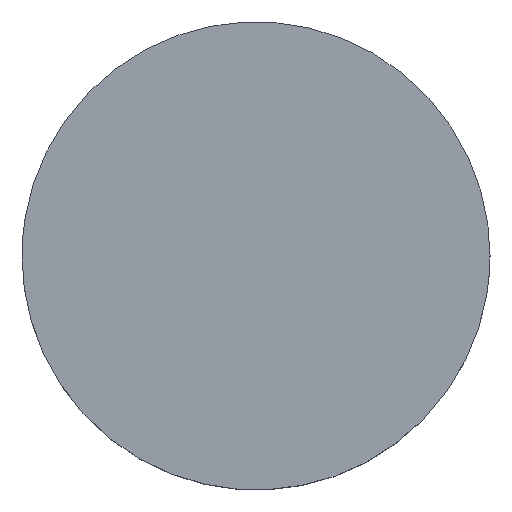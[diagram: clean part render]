
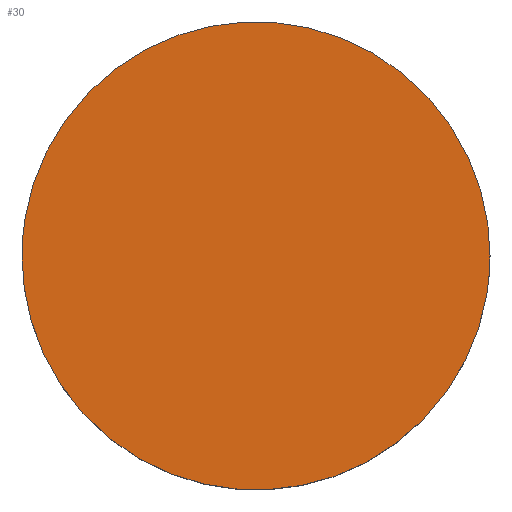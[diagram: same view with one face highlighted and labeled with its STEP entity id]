
A CAD part, top view. The second image highlights one B-rep face of the part: STEP entity #30.
In plain terms, the highlighted planar face has unit normal (0, 0, 1).
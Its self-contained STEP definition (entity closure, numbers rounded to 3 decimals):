
#30=ADVANCED_FACE('',(#43),#187,.T.);
#43=FACE_OUTER_BOUND('',#57,.T.);
#57=EDGE_LOOP('',(#83,#84));
#83=ORIENTED_EDGE('',*,*,#120,.T.);
#84=ORIENTED_EDGE('',*,*,#132,.T.);
#120=EDGE_CURVE('',#165,#172,#144,.T.);
#132=EDGE_CURVE('',#172,#165,#156,.T.);
#144=(
BOUNDED_CURVE()
B_SPLINE_CURVE(2,(#457,#458,#459,#460,#461),.UNSPECIFIED.,.F.,.F.)
B_SPLINE_CURVE_WITH_KNOTS((3,2,3),(0.,50.265,100.531),
 .UNSPECIFIED.)
CURVE()
GEOMETRIC_REPRESENTATION_ITEM()
RATIONAL_B_SPLINE_CURVE((1.,0.707,1.,0.707,1.))
REPRESENTATION_ITEM('')
);
#156=(
BOUNDED_CURVE()
B_SPLINE_CURVE(2,(#547,#548,#549,#550,#551),.UNSPECIFIED.,.F.,.F.)
B_SPLINE_CURVE_WITH_KNOTS((3,2,3),(100.531,150.796,201.062),
 .UNSPECIFIED.)
CURVE()
GEOMETRIC_REPRESENTATION_ITEM()
RATIONAL_B_SPLINE_CURVE((1.,0.707,1.,0.707,1.))
REPRESENTATION_ITEM('')
);
#165=VERTEX_POINT('',#421);
#172=VERTEX_POINT('',#428);
#187=PLANE('',#210);
#210=AXIS2_PLACEMENT_3D('',#252,#216,$);
#216=DIRECTION('',(0.,0.,1.));
#252=CARTESIAN_POINT('',(-40.,-40.,90.));
#421=CARTESIAN_POINT('',(32.,0.,90.));
#428=CARTESIAN_POINT('',(-32.,0.,90.));
#457=CARTESIAN_POINT('',(32.,0.,90.));
#458=CARTESIAN_POINT('',(32.,32.,90.));
#459=CARTESIAN_POINT('',(0.,32.,90.));
#460=CARTESIAN_POINT('',(-32.,32.,90.));
#461=CARTESIAN_POINT('',(-32.,0.,90.));
#547=CARTESIAN_POINT('',(-32.,0.,90.));
#548=CARTESIAN_POINT('',(-32.,-32.,90.));
#549=CARTESIAN_POINT('',(0.,-32.,90.));
#550=CARTESIAN_POINT('',(32.,-32.,90.));
#551=CARTESIAN_POINT('',(32.,0.,90.));
